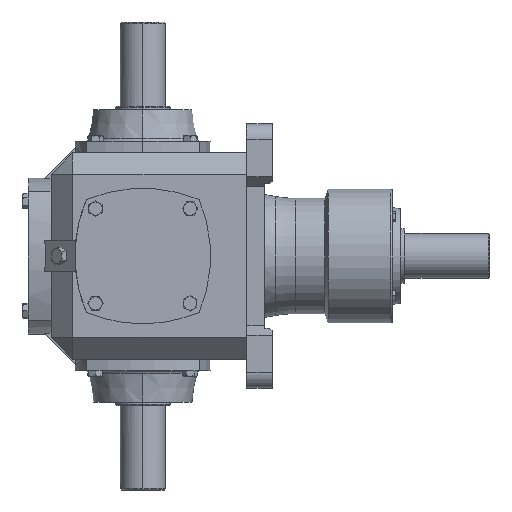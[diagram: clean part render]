
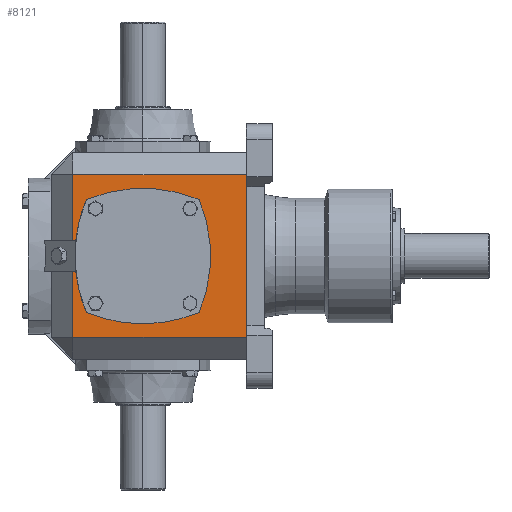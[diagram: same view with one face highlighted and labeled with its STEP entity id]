
A CAD part, left-side view. The second image highlights one B-rep face of the part: STEP entity #8121.
In plain terms, the highlighted planar face has unit normal (-1, 0, 0).
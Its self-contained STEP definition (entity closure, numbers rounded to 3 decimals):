
#247 = EDGE_CURVE ( 'NONE', #10983, #785, #3504, .T. ) ;
#271 = ORIENTED_EDGE ( 'NONE', *, *, #4951, .F. ) ;
#361 = ORIENTED_EDGE ( 'NONE', *, *, #13715, .F. ) ;
#391 = CARTESIAN_POINT ( 'NONE',  ( -91.8, 69.44, 0. ) ) ;
#392 = DIRECTION ( 'NONE',  ( 0., 1., 0. ) ) ;
#626 = LINE ( 'NONE', #14831, #11452 ) ;
#785 = VERTEX_POINT ( 'NONE', #10518 ) ;
#840 = ORIENTED_EDGE ( 'NONE', *, *, #11372, .T. ) ;
#901 = CARTESIAN_POINT ( 'NONE',  ( -91.8, 0., 69.44 ) ) ;
#1211 = CARTESIAN_POINT ( 'NONE',  ( -91.8, 62.232, 72.432 ) ) ;
#1229 = VECTOR ( 'NONE', #4194, 1000. ) ;
#1384 = ORIENTED_EDGE ( 'NONE', *, *, #13989, .F. ) ;
#1461 = VERTEX_POINT ( 'NONE', #2362 ) ;
#1641 = LINE ( 'NONE', #4630, #14945 ) ;
#1716 = CARTESIAN_POINT ( 'NONE',  ( -91.8, -69.44, 0. ) ) ;
#1787 = DIRECTION ( 'NONE',  ( 0., 0., 1. ) ) ;
#1845 = VERTEX_POINT ( 'NONE', #14446 ) ;
#1953 = VERTEX_POINT ( 'NONE', #16125 ) ;
#2005 = EDGE_CURVE ( 'NONE', #7218, #1461, #5873, .T. ) ;
#2055 = CARTESIAN_POINT ( 'NONE',  ( -91.8, 59.521, -13.558 ) ) ;
#2179 = EDGE_CURVE ( 'NONE', #16478, #785, #3659, .T. ) ;
#2324 = DIRECTION ( 'NONE',  ( 0., 0., 1. ) ) ;
#2362 = CARTESIAN_POINT ( 'NONE',  ( -91.8, -92., -72.432 ) ) ;
#2494 = CARTESIAN_POINT ( 'NONE',  ( -91.8, 62.232, 91.8 ) ) ;
#3049 = DIRECTION ( 'NONE',  ( -1., 0., 0. ) ) ;
#3130 = DIRECTION ( 'NONE',  ( 0., 0., 1. ) ) ;
#3178 = DIRECTION ( 'NONE',  ( -1., 0., 0. ) ) ;
#3206 = AXIS2_PLACEMENT_3D ( 'NONE', #391, #10274, #1787 ) ;
#3212 = VECTOR ( 'NONE', #14305, 1000. ) ;
#3434 = ORIENTED_EDGE ( 'NONE', *, *, #4266, .F. ) ;
#3504 = LINE ( 'NONE', #13131, #11020 ) ;
#3506 = DIRECTION ( 'NONE',  ( -1., 0., 0. ) ) ;
#3659 = LINE ( 'NONE', #4362, #3212 ) ;
#3933 = CARTESIAN_POINT ( 'NONE',  ( -91.8, 59.521, 13.558 ) ) ;
#4152 = DIRECTION ( 'NONE',  ( 0., 0., -1. ) ) ;
#4194 = DIRECTION ( 'NONE',  ( 0., 1., 0. ) ) ;
#4250 = CIRCLE ( 'NONE', #16409, 129.672 ) ;
#4266 = EDGE_CURVE ( 'NONE', #8205, #10720, #17778, .T. ) ;
#4362 = CARTESIAN_POINT ( 'NONE',  ( -91.8, 62.232, 91.8 ) ) ;
#4391 = ORIENTED_EDGE ( 'NONE', *, *, #16075, .F. ) ;
#4630 = CARTESIAN_POINT ( 'NONE',  ( -91.8, 81.6, -13.558 ) ) ;
#4650 = CIRCLE ( 'NONE', #10535, 129.672 ) ;
#4672 = VERTEX_POINT ( 'NONE', #12820 ) ;
#4916 = CIRCLE ( 'NONE', #17956, 129.672 ) ;
#4951 = EDGE_CURVE ( 'NONE', #1953, #10983, #4650, .T. ) ;
#5140 = ORIENTED_EDGE ( 'NONE', *, *, #12543, .F. ) ;
#5622 = CARTESIAN_POINT ( 'NONE',  ( -91.8, 81.6, 72.432 ) ) ;
#5873 = LINE ( 'NONE', #7739, #12969 ) ;
#6061 = DIRECTION ( 'NONE',  ( 0., -1., 0. ) ) ;
#6342 = DIRECTION ( 'NONE',  ( 0., 0., 1. ) ) ;
#6371 = AXIS2_PLACEMENT_3D ( 'NONE', #18282, #12631, #4152 ) ;
#6525 = CIRCLE ( 'NONE', #3206, 129.672 ) ;
#6851 = EDGE_CURVE ( 'NONE', #1461, #4672, #626, .T. ) ;
#6855 = VERTEX_POINT ( 'NONE', #2055 ) ;
#7218 = VERTEX_POINT ( 'NONE', #14509 ) ;
#7230 = CARTESIAN_POINT ( 'NONE',  ( -91.8, 0., -60.232 ) ) ;
#7459 = ORIENTED_EDGE ( 'NONE', *, *, #15571, .F. ) ;
#7619 = EDGE_LOOP ( 'NONE', ( #9304, #271, #1384, #5140, #3434, #361, #4391, #7459, #840, #13186, #15823, #8357, #11944 ) ) ;
#7739 = CARTESIAN_POINT ( 'NONE',  ( -91.8, 81.6, -72.432 ) ) ;
#8121 = ADVANCED_FACE ( 'NONE', ( #16756 ), #11197, .F. ) ;
#8155 = EDGE_CURVE ( 'NONE', #4672, #16478, #8746, .T. ) ;
#8184 = CARTESIAN_POINT ( 'NONE',  ( -91.8, -50.144, -50.144 ) ) ;
#8205 = VERTEX_POINT ( 'NONE', #7230 ) ;
#8357 = ORIENTED_EDGE ( 'NONE', *, *, #8155, .T. ) ;
#8453 = AXIS2_PLACEMENT_3D ( 'NONE', #1716, #11618, #3130 ) ;
#8746 = LINE ( 'NONE', #5622, #1229 ) ;
#9304 = ORIENTED_EDGE ( 'NONE', *, *, #247, .F. ) ;
#9556 = DIRECTION ( 'NONE',  ( 0., 0., -1. ) ) ;
#10274 = DIRECTION ( 'NONE',  ( -1., 0., 0. ) ) ;
#10518 = CARTESIAN_POINT ( 'NONE',  ( -91.8, 62.232, 13.558 ) ) ;
#10535 = AXIS2_PLACEMENT_3D ( 'NONE', #11978, #3506, #13423 ) ;
#10638 = AXIS2_PLACEMENT_3D ( 'NONE', #11673, #3178, #13092 ) ;
#10720 = VERTEX_POINT ( 'NONE', #8184 ) ;
#10795 = DIRECTION ( 'NONE',  ( -1., 0., 0. ) ) ;
#10983 = VERTEX_POINT ( 'NONE', #3933 ) ;
#11020 = VECTOR ( 'NONE', #392, 1000. ) ;
#11130 = CARTESIAN_POINT ( 'NONE',  ( -91.8, 50.144, -50.144 ) ) ;
#11197 = PLANE ( 'NONE',  #6371 ) ;
#11372 = EDGE_CURVE ( 'NONE', #1845, #7218, #14117, .T. ) ;
#11452 = VECTOR ( 'NONE', #6342, 1000. ) ;
#11516 = CARTESIAN_POINT ( 'NONE',  ( -91.8, 0., -69.44 ) ) ;
#11618 = DIRECTION ( 'NONE',  ( -1., 0., 0. ) ) ;
#11673 = CARTESIAN_POINT ( 'NONE',  ( -91.8, 0., 69.44 ) ) ;
#11944 = ORIENTED_EDGE ( 'NONE', *, *, #2179, .T. ) ;
#11978 = CARTESIAN_POINT ( 'NONE',  ( -91.8, -69.44, 0. ) ) ;
#11986 = CARTESIAN_POINT ( 'NONE',  ( -91.8, -50.144, 50.144 ) ) ;
#12543 = EDGE_CURVE ( 'NONE', #10720, #18199, #6525, .T. ) ;
#12631 = DIRECTION ( 'NONE',  ( 1., 0., 0. ) ) ;
#12820 = CARTESIAN_POINT ( 'NONE',  ( -91.8, -92., 72.432 ) ) ;
#12956 = DIRECTION ( 'NONE',  ( 0., 0., 1. ) ) ;
#12969 = VECTOR ( 'NONE', #16240, 1000. ) ;
#13092 = DIRECTION ( 'NONE',  ( 0., 0., 1. ) ) ;
#13131 = CARTESIAN_POINT ( 'NONE',  ( -91.8, 81.6, 13.558 ) ) ;
#13186 = ORIENTED_EDGE ( 'NONE', *, *, #2005, .T. ) ;
#13379 = CIRCLE ( 'NONE', #8453, 129.672 ) ;
#13423 = DIRECTION ( 'NONE',  ( 0., 0., 1. ) ) ;
#13663 = VECTOR ( 'NONE', #9556, 1000. ) ;
#13715 = EDGE_CURVE ( 'NONE', #14353, #8205, #4250, .T. ) ;
#13989 = EDGE_CURVE ( 'NONE', #18199, #1953, #4916, .T. ) ;
#14117 = LINE ( 'NONE', #2494, #13663 ) ;
#14305 = DIRECTION ( 'NONE',  ( 0., 0., -1. ) ) ;
#14353 = VERTEX_POINT ( 'NONE', #11130 ) ;
#14446 = CARTESIAN_POINT ( 'NONE',  ( -91.8, 62.232, -13.558 ) ) ;
#14509 = CARTESIAN_POINT ( 'NONE',  ( -91.8, 62.232, -72.432 ) ) ;
#14831 = CARTESIAN_POINT ( 'NONE',  ( -91.8, -92., 91.8 ) ) ;
#14945 = VECTOR ( 'NONE', #6061, 1000. ) ;
#15571 = EDGE_CURVE ( 'NONE', #1845, #6855, #1641, .T. ) ;
#15823 = ORIENTED_EDGE ( 'NONE', *, *, #6851, .T. ) ;
#16075 = EDGE_CURVE ( 'NONE', #6855, #14353, #13379, .T. ) ;
#16125 = CARTESIAN_POINT ( 'NONE',  ( -91.8, 50.144, 50.144 ) ) ;
#16240 = DIRECTION ( 'NONE',  ( 0., -1., 0. ) ) ;
#16409 = AXIS2_PLACEMENT_3D ( 'NONE', #901, #10795, #2324 ) ;
#16478 = VERTEX_POINT ( 'NONE', #1211 ) ;
#16756 = FACE_OUTER_BOUND ( 'NONE', #7619, .T. ) ;
#17778 = CIRCLE ( 'NONE', #10638, 129.672 ) ;
#17956 = AXIS2_PLACEMENT_3D ( 'NONE', #11516, #3049, #12956 ) ;
#18199 = VERTEX_POINT ( 'NONE', #11986 ) ;
#18282 = CARTESIAN_POINT ( 'NONE',  ( -91.8, 81.6, 91.8 ) ) ;
